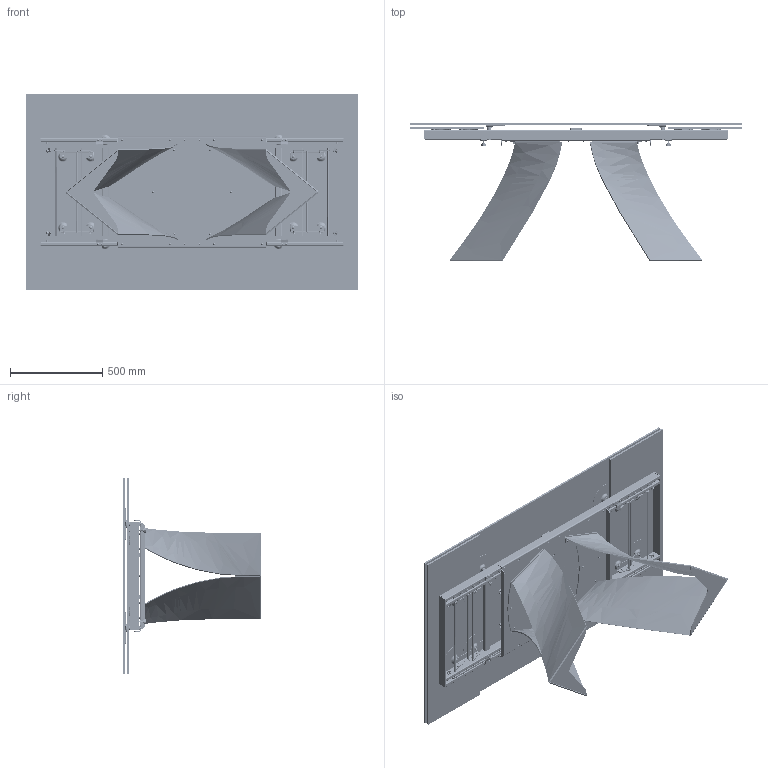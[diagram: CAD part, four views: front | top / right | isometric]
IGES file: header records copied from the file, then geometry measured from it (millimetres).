
Start section: SolidWorks IGES file using analytic representation for surfaces
Global section: file name: Y:\eforma\TECNICO\SOLIDWORKS\E-FORMA\1-TAVOLI\TWIST ALLUNGABILE\08 modelli 3D web\TW31G_Twist 180-260_Close_Glass.IGS; native system: SolidWorks 2022; preprocessor: SolidWorks 2022; author: eforma.tech; date: 240801.154715; units: millimetre
Bounding box: 1800 x 745.5 x 1060 mm (x, y, z)
Volume: 37764874.1 mm3; surface area: 12678265 mm2
Topology: 50 solids, 50 shells, 8756 faces, 90542 edges, 89226 vertices
Faces by surface type: revolution 4678, bspline 3582, plane 496
